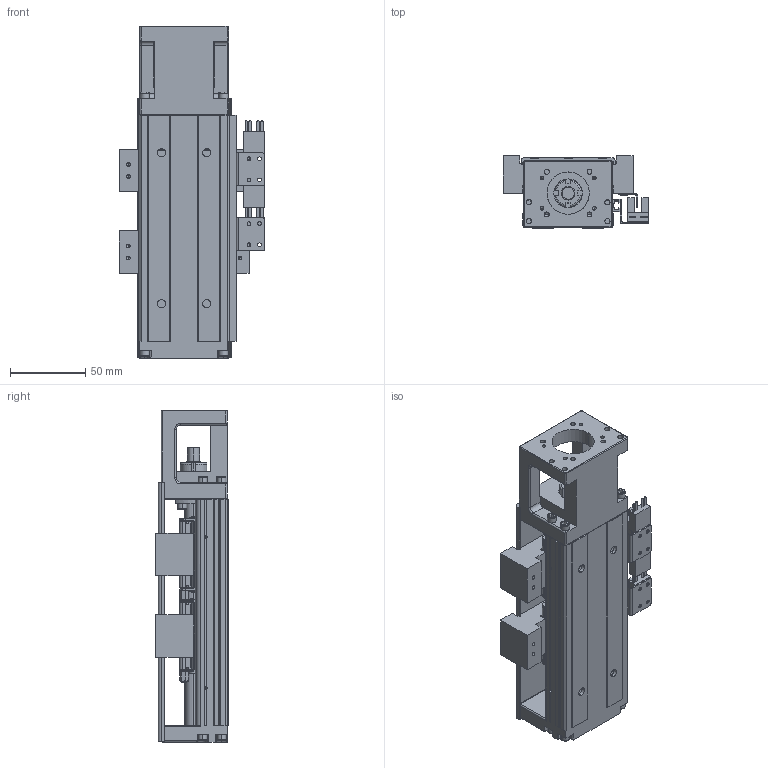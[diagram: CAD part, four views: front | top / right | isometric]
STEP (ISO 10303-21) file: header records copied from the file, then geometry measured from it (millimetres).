
FILE_DESCRIPTION (( 'STEP AP214' ), '1' );
FILE_NAME ('SFKK60-150S2-F0C.STEP', '2022-05-03T02:26:03', ( '微软用户' ), ( '微软中国' ), 'SwSTEP 2.0', 'SolidWorks 2018', '' );
FILE_SCHEMA (( 'AUTOMOTIVE_DESIGN' ));
Length unit declared in the file: millimetre
Products named in the file (9): SFKK60-LR 憤癹寢耋_150; SFKK60C-S1-C; 带盖挡光片：KK-60-S2-D1; SFKK-60-CU_150; SX674嫖萇羲壽; SFKK60-150S2-F0C; 极限轨道与开关固定座组合_150; 开关固定座：KK-674S2-F; SFKK60-F0_150
Assembly tree (12 placements, depth 3):
  SFKK60-150S2-F0C
    SFKK60-F0_150
    SFKK60C-S1-C  x2
    极限轨道与开关固定座组合_150
      SFKK60-LR 憤癹寢耋_150
      开关固定座：KK-674S2-F  x2
    SX674嫖萇羲壽  x3
    SFKK-60-CU_150
    带盖挡光片：KK-60-S2-D1
Bounding box: 96.4 x 48 x 220 mm (x, y, z)
Volume: 409707.8 mm3; surface area: 170381.3 mm2
Topology: 54 solids, 64 shells, 2524 faces, 6626 edges, 4299 vertices
Faces by surface type: plane 1361, cylinder 893, cone 144, torus 63, bspline 40, sphere 23
Entity records: 68841 total; most frequent: CARTESIAN_POINT 17331, DIRECTION 8462, ORIENTED_EDGE 8204, EDGE_CURVE 4102, AXIS2_PLACEMENT_3D 2946, VERTEX_POINT 2667, LINE 2570, VECTOR 2570
